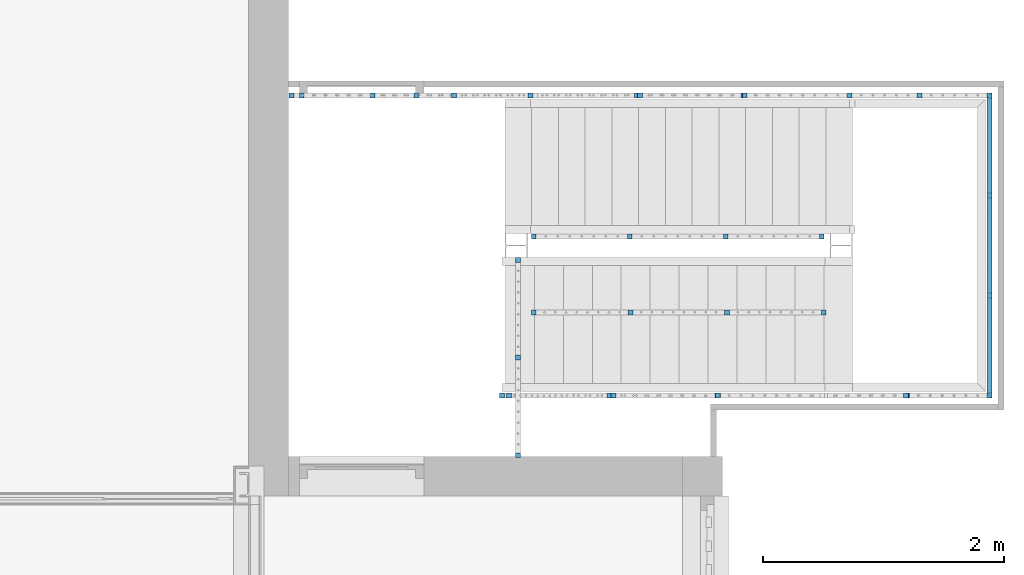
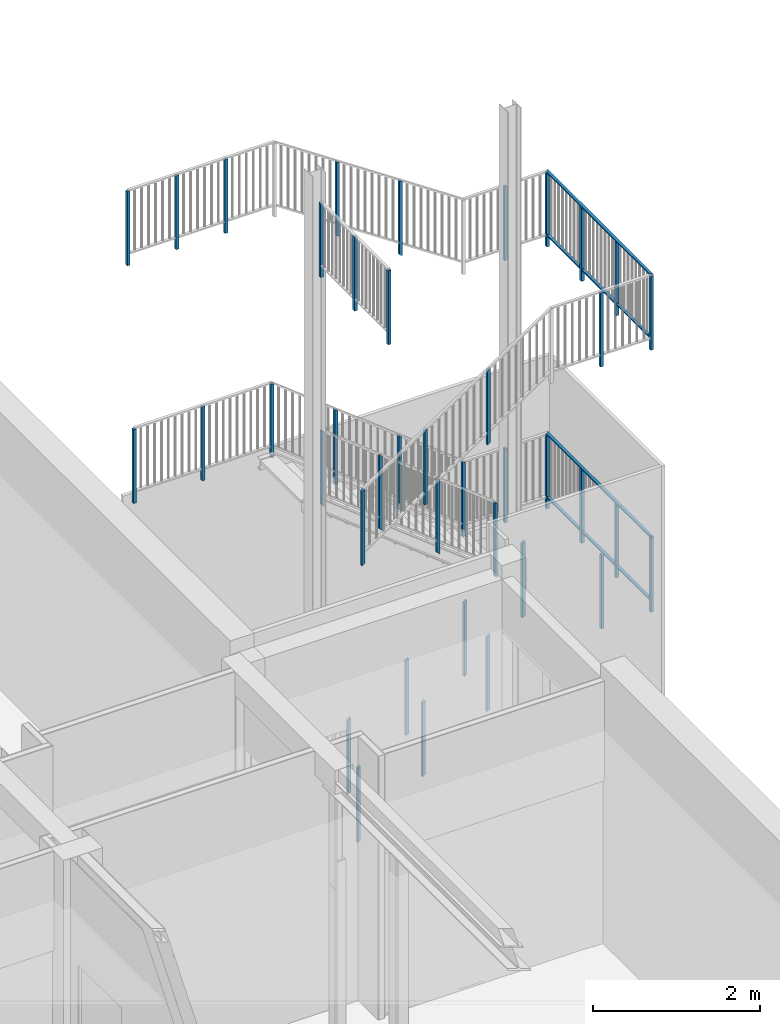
# One storey, part 5 of 135: 44 members, 5 elements without a shape of their own.
"""IFC2X3 building model written with IfcOpenShell, lengths in millimetres."""

import ifcopenshell
import ifcopenshell.guid

model = None  # the IFC model being written
_history = None  # IfcOwnerHistory: only IFC2X3 demands one
_inside = {}  # id of a spatial element -> (the spatial element, [elements in it])
_under = {}  # id of a project, library or spatial element -> (it, [spatial elements below it])
_declared = {}  # id of a project -> (the project, [libraries it declares])
_typed = {}  # id of a type object -> (the type object, [elements of that type])
_made_of = {}  # id of a material, layer set ... -> (it, [elements and type objects made of it])


def new_model(schema):
    """Start an empty IFC model of exactly this schema.

    Asked for "IFC4X3", IfcOpenShell would pick the latest addendum, in which some entities
    have other attributes; the version numbers below select the first issue.
    IFC2X3 requires an IfcOwnerHistory on every rooted entity: one is made here for all.
    """
    global model, _history
    if schema == "IFC4X3":
        model = ifcopenshell.file(schema_version=(4, 3, 0, 0))
    else:
        model = ifcopenshell.file(schema=schema)
    _inside.clear()
    _under.clear()
    _declared.clear()
    _typed.clear()
    _made_of.clear()
    _history = None
    if model.schema == "IFC2X3":
        org = make("IfcOrganization", Name="unknown")
        user = make(
            "IfcPersonAndOrganization",
            ThePerson=make("IfcPerson", FamilyName="unknown"),
            TheOrganization=org,
        )
        app = make(
            "IfcApplication",
            ApplicationDeveloper=org,
            Version="unknown",
            ApplicationFullName="unknown",
            ApplicationIdentifier="unknown",
        )
        _history = make(
            "IfcOwnerHistory",
            OwningUser=user,
            OwningApplication=app,
            ChangeAction="ADDED",
            CreationDate=0,
        )
    return model


def make(cls, **values):
    """One entity of the class cls with the attributes given. An attribute that is None is left unset."""
    return model.create_entity(
        cls, **{name: value for name, value in values.items() if value is not None}
    )


def entity(cls, *values):
    """Any entity or typed value of the class cls, its attributes in the order of the schema. None: left unset."""
    e = model.create_entity(cls)
    for i, value in enumerate(values):
        if value is not None:
            e[i] = value
    return e


def rooted(cls, **values):
    """An entity with a GlobalId (a new one), such as an element, a storey or a relation."""
    return make(cls, GlobalId=ifcopenshell.guid.new(), OwnerHistory=_history, **values)


def si_unit(unit_type, name, prefix=None):
    """IfcSIUnit, for example si_unit("LENGTHUNIT", "METRE", prefix="MILLI")."""
    return make("IfcSIUnit", UnitType=unit_type, Prefix=prefix, Name=name)


def converted_unit(unit_type, name, factor, base, dimensions=None, offset=None):
    """IfcConversionBasedUnit, such as the inch: factor (a typed value) times the base unit."""
    return make(
        "IfcConversionBasedUnit"
        if offset is None
        else "IfcConversionBasedUnitWithOffset",
        ConversionOffset=offset,
        Dimensions=None
        if dimensions is None
        else entity("IfcDimensionalExponents", *dimensions),
        UnitType=unit_type,
        Name=name,
        ConversionFactor=make(
            "IfcMeasureWithUnit", ValueComponent=factor, UnitComponent=base
        ),
    )


def derived_unit(unit_type, elements):
    """IfcDerivedUnit: a product of units, each with its exponent."""
    return make(
        "IfcDerivedUnit",
        Elements=[
            make("IfcDerivedUnitElement", Unit=unit, Exponent=power)
            for unit, power in elements
        ],
        UnitType=unit_type,
    )


def money_unit(currency):
    """IfcMonetaryUnit."""
    return make("IfcMonetaryUnit", Currency=currency)


def assignment(units):
    """IfcUnitAssignment: the units of a project."""
    return None if units is None else make("IfcUnitAssignment", Units=units)


def point(xyz):
    """IfcCartesianPoint."""
    return None if xyz is None else make("IfcCartesianPoint", Coordinates=xyz)


def direction(xyz):
    """IfcDirection."""
    return None if xyz is None else make("IfcDirection", DirectionRatios=xyz)


def frame(location, z_axis=None, x_axis=None):
    """IfcAxis2Placement3D, a coordinate frame: its origin and axes. An axis left out is left unset."""
    return make(
        "IfcAxis2Placement3D",
        Location=point(location),
        Axis=direction(z_axis),
        RefDirection=direction(x_axis),
    )


def origin_with_axes():
    """The frame at (0, 0, 0) with the z axis (0, 0, 1) and the x axis (1, 0, 0) written out."""
    return frame((0.0, 0.0, 0.0), z_axis=(0.0, 0.0, 1.0), x_axis=(1.0, 0.0, 0.0))


def place(relative_to, where):
    """IfcLocalPlacement: puts the frame where relative to a parent placement (None: the world)."""
    return make(
        "IfcLocalPlacement", PlacementRelTo=relative_to, RelativePlacement=where
    )


def context(
    kind, dimensions, precision=None, world=None, true_north=None, identifier=None
):
    """IfcGeometricRepresentationContext, for example the 3D "Model" context."""
    return make(
        "IfcGeometricRepresentationContext",
        ContextIdentifier=identifier,
        ContextType=kind,
        CoordinateSpaceDimension=dimensions,
        Precision=precision,
        WorldCoordinateSystem=world,
        TrueNorth=true_north,
    )


def subcontext(parent, identifier, kind, view, scale=None):
    """IfcGeometricRepresentationSubContext, for example "Body" below "Model"."""
    return make(
        "IfcGeometricRepresentationSubContext",
        ContextIdentifier=identifier,
        ContextType=kind,
        ParentContext=parent,
        TargetScale=scale,
        TargetView=view,
    )


def project(units=None, contexts=None):
    """IfcProject with its units and contexts."""
    return rooted(
        "IfcProject",
        Name="project",
        RepresentationContexts=contexts,
        UnitsInContext=assignment(units),
    )


def spatial(cls, under=None, at=None, **own):
    """A site, building, storey or space (cls), placed at a placement, below another one or the project."""
    s = rooted(cls, ObjectPlacement=at, **own)
    if under is not None:
        _under.setdefault(under.id(), (under, []))[1].append(s)
    return s


def faces_of(points, faces, orient=None, outer=None):
    """IfcFace entities. A face is a list of loops; a loop is a list of indices into points, from 0.

    orient and outer hold one flag for each loop. By default every Orientation is true, the
    first loop of a face is its IfcFaceOuterBound and the others are IfcFaceBound.
    """
    made = []
    for i, loops in enumerate(faces):
        bounds = []
        for j, loop in enumerate(loops):
            is_outer = j == 0 if outer is None else outer[i][j]
            bounds.append(
                make(
                    "IfcFaceOuterBound" if is_outer else "IfcFaceBound",
                    Bound=make("IfcPolyLoop", Polygon=[points[k] for k in loop]),
                    Orientation=True if orient is None else orient[i][j],
                )
            )
        made.append(make("IfcFace", Bounds=bounds))
    return made


def faceted_brep(points, faces, orient=None, outer=None, voids=None):
    """IfcFacetedBrep: a solid bounded by flat faces; with voids (closed shells), ...WithVoids."""
    shared = [point(p) for p in points]
    hull = make("IfcClosedShell", CfsFaces=faces_of(shared, faces, orient, outer))
    if voids is None:
        return make("IfcFacetedBrep", Outer=hull)
    return make(
        "IfcFacetedBrepWithVoids",
        Outer=hull,
        Voids=[
            make(cls, CfsFaces=faces_of(shared, fs, o, b)) for cls, fs, o, b in voids
        ],
    )


def shape(context_of_items, identifier, shape_type, items):
    """IfcShapeRepresentation: the items that make up one representation, for example the "Body"."""
    return make(
        "IfcShapeRepresentation",
        ContextOfItems=context_of_items,
        RepresentationIdentifier=identifier,
        RepresentationType=shape_type,
        Items=items,
    )


def source(mapping_origin, context_of_items, identifier, shape_type, items):
    """IfcRepresentationMap: a shape defined once, which mapped items show again and again."""
    return make(
        "IfcRepresentationMap",
        MappingOrigin=mapping_origin,
        MappedRepresentation=shape(context_of_items, identifier, shape_type, items),
    )


def transform(
    local_origin,
    x_axis=None,
    y_axis=None,
    z_axis=None,
    scale=None,
    scale2=None,
    scale3=None,
    uniform=True,
):
    """IfcCartesianTransformationOperator3D, or its non-uniform kind. x_axis, y_axis, z_axis: its Axis1, 2, 3."""
    if uniform:
        return make(
            "IfcCartesianTransformationOperator3D",
            Axis1=direction(x_axis),
            Axis2=direction(y_axis),
            LocalOrigin=point(local_origin),
            Scale=scale,
            Axis3=direction(z_axis),
        )
    return make(
        "IfcCartesianTransformationOperator3DnonUniform",
        Axis1=direction(x_axis),
        Axis2=direction(y_axis),
        LocalOrigin=point(local_origin),
        Scale=scale,
        Axis3=direction(z_axis),
        Scale2=scale2,
        Scale3=scale3,
    )


def mapped(mapping_source, mapping_target):
    """IfcMappedItem: shows the shape of a source again, moved by a transform."""
    return make(
        "IfcMappedItem", MappingSource=mapping_source, MappingTarget=mapping_target
    )


def material(Name=None, Category=None):
    """IfcMaterial."""
    return make("IfcMaterial", Name=Name, Category=Category)


def made_of(thing, what):
    """Note that an element or type object is made of a material, layer set ...; save() writes the relation."""
    if what is not None:
        _made_of.setdefault(what.id(), (what, []))[1].append(thing)
    return thing


def type_object(cls, material=None, **own):
    """A type object (cls), such as IfcWallType, which elements share."""
    return made_of(rooted(cls, **own), material)


def type_shapes(of_type, sources):
    """Give a type object the sources (RepresentationMaps) that its elements show as mapped items."""
    of_type.RepresentationMaps = sources


def element(
    cls,
    number,
    at=None,
    inside=None,
    cuts=None,
    type_object=None,
    material=None,
    context=None,
    identifier="Body",
    shape_type=None,
    held_by="IfcProductDefinitionShape",
    body=None,
    shapes=None,
    **own,
):
    """One element of the class cls, such as IfcWall. Its Tag is "e" and its number.

    at: its placement. inside: the storey or other place that contains it. cuts: it is an
    opening in that element (IfcRelVoidsElement). A single representation is given by context,
    identifier, shape_type and body (its items); several are given by shapes. held_by: the class
    of the entity that holds the representations. save() writes the other relations.
    """
    e = rooted(cls, Tag="e%d" % number, ObjectPlacement=at, **own)
    if body is not None:
        shapes = [shape(context, identifier, shape_type, body)]
    if shapes is not None:
        e.Representation = make(held_by, Representations=shapes)
    if inside is not None:
        _inside.setdefault(inside.id(), (inside, []))[1].append(e)
    if cuts is not None:
        rooted(
            "IfcRelVoidsElement", RelatingBuildingElement=cuts, RelatedOpeningElement=e
        )
    if type_object is not None:
        _typed.setdefault(type_object.id(), (type_object, []))[1].append(e)
    return made_of(e, material)


def aggregate(whole, parts):
    """IfcRelAggregates: a whole, such as a stair, and the parts it consists of."""
    return rooted("IfcRelAggregates", RelatingObject=whole, RelatedObjects=parts)


def save(model, path):
    """Write the relations noted so far, then the file.

    IfcRelAggregates (storeys below a building ...), IfcRelContainedInSpatialStructure (elements
    in a storey), IfcRelDefinesByType, IfcRelAssociatesMaterial and IfcRelDeclares: one each for
    every whole, place, type object, material and project.
    """
    for whole, parts in _under.values():
        aggregate(whole, parts)
    for where, things in _inside.values():
        rooted(
            "IfcRelContainedInSpatialStructure",
            RelatedElements=things,
            RelatingStructure=where,
        )
    for kind, things in _typed.values():
        rooted("IfcRelDefinesByType", RelatedObjects=things, RelatingType=kind)
    for what, things in _made_of.values():
        rooted("IfcRelAssociatesMaterial", RelatedObjects=things, RelatingMaterial=what)
    for by, libraries in _declared.values():
        rooted("IfcRelDeclares", RelatingContext=by, RelatedDefinitions=libraries)
    model.write(path)


model = new_model("IFC2X3")

# Units and contexts
model_context = context("Model", 3, precision=0.01, world=origin_with_axes(), true_north=direction((0.0, 1.0)))
body_context = subcontext(model_context, "Body", "Model", "MODEL_VIEW")
ifc_project = project(units=[si_unit("LENGTHUNIT", "METRE", prefix="MILLI"), si_unit("AREAUNIT", "SQUARE_METRE"), si_unit("VOLUMEUNIT", "CUBIC_METRE"), converted_unit("PLANEANGLEUNIT", "DEGREE", entity("IfcPlaneAngleMeasure", 0.0174532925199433), si_unit("PLANEANGLEUNIT", "RADIAN"), dimensions=[0, 0, 0, 0, 0, 0, 0]), money_unit("EUR"), converted_unit("TIMEUNIT", "Year", entity("IfcTimeMeasure", 31557600.0), si_unit("TIMEUNIT", "SECOND"), dimensions=[0, 0, 1, 0, 0, 0, 0]), si_unit("MASSUNIT", "GRAM", prefix="KILO"), si_unit("THERMODYNAMICTEMPERATUREUNIT", "DEGREE_CELSIUS"), si_unit("LUMINOUSINTENSITYUNIT", "LUMEN"), si_unit("ENERGYUNIT", "JOULE", prefix="MEGA"), derived_unit("THERMALCONDUCTANCEUNIT", [(si_unit("POWERUNIT", "WATT"), 1), (si_unit("LENGTHUNIT", "METRE"), -1), (si_unit("THERMODYNAMICTEMPERATUREUNIT", "KELVIN"), -1)]), derived_unit("SPECIFICHEATCAPACITYUNIT", [(si_unit("ENERGYUNIT", "JOULE"), 1), (si_unit("MASSUNIT", "GRAM", prefix="KILO"), -1), (si_unit("THERMODYNAMICTEMPERATUREUNIT", "KELVIN"), -1)]), derived_unit("MASSDENSITYUNIT", [(si_unit("MASSUNIT", "GRAM", prefix="KILO"), 1), (si_unit("VOLUMEUNIT", "CUBIC_METRE"), -1)])], contexts=[model_context])

# Site, building, storey
site_placement = place(None, origin_with_axes())
site = spatial("IfcSite", under=ifc_project, at=site_placement, Name="Site", CompositionType="ELEMENT")
building_placement = place(site_placement, origin_with_axes())
building = spatial("IfcBuilding", under=site, at=building_placement, Name="Naam gebouw", CompositionType="ELEMENT")
storey_placement = place(building_placement, origin_with_axes())
storey = spatial("IfcBuildingStorey", under=building, at=storey_placement, Name="Begane grond N", CompositionType="ELEMENT", Elevation=0.0)

# Railing, members
railing_type = type_object("IfcRailingType", Name="Railing Type", PredefinedType="NOTDEFINED")
railing_1_placement = place(storey_placement, frame((56130.0, 21825.9124251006, 348.1433232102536), z_axis=(0.0, 0.0, 1.0), x_axis=(1.0, 0.0, 0.0)))
railing_1 = element("IfcRailing", 1, at=railing_1_placement, inside=storey, type_object=railing_type, Name="_Reling-x", PredefinedType="NOTDEFINED")
ifc_material = material(Name="Metaal - Staal C")
member_type_1 = type_object("IfcMemberType", Name="IfcMember", PredefinedType="POST")
shared_shape_1 = source(origin_with_axes(), body_context, "Body", "Brep", [
    faceted_brep([(20.0, 20.0, 14.40972222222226), (-20.0, 20.0, 14.40972222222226), (-20.00000000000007, 20.0, 1094.409722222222), (19.99999999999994, 20.0, 1094.409722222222), (20.0, -20.0, -14.40972222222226), (-20.0, -20.0, -14.40972222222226), (-20.00000000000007, -20.0, 1065.590277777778), (19.99999999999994, -20.0, 1065.590277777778)], [[[0, 1, 2, 3]], [[0, 4, 5, 1]], [[1, 5, 6, 2]], [[3, 2, 6, 7]], [[4, 0, 3, 7]], [[5, 4, 7, 6]]]),
])
member_1_placement = place(railing_1_placement, frame((234.6527777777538, 24.99999999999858, -100.0), z_axis=(0.0, 0.0, 1.0), x_axis=(1.0, 0.0, 0.0)))
member_1 = element("IfcMember", 2, at=member_1_placement, type_object=member_type_1, material=ifc_material, Name="_Hoofdbaluster-x", ObjectType="POST", context=body_context, shape_type="MappedRepresentation", body=[
    mapped(shared_shape_1, transform((0.0, 0.0, 0.0), x_axis=(0.0, -1.0, 0.0), y_axis=(1.0, 0.0, 0.0), z_axis=(0.0, 0.0, 1.0))),
])
member_2_placement = place(railing_1_placement, frame((2639.999999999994, 24.99999999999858, 1633.019266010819), z_axis=(0.0, 0.0, 1.0), x_axis=(1.0, 0.0, 0.0)))
member_2 = element("IfcMember", 3, at=member_2_placement, type_object=member_type_1, material=ifc_material, Name="_Hoofdbaluster-x", ObjectType="POST", context=body_context, shape_type="MappedRepresentation", body=[
    mapped(shared_shape_1, transform((0.0, 0.0, 0.0), x_axis=(0.0, -1.0, 0.0), y_axis=(1.0, 0.0, 0.0), z_axis=(0.0, 0.0, 1.0))),
])
member_3_placement = place(railing_1_placement, frame((1036.435185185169, 24.99999999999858, 477.6730886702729), z_axis=(0.0, 0.0, 1.0), x_axis=(1.0, 0.0, 0.0)))
member_3 = element("IfcMember", 4, at=member_3_placement, type_object=member_type_1, material=ifc_material, Name="_Baluster-x", ObjectType="POST", context=body_context, shape_type="MappedRepresentation", body=[
    mapped(shared_shape_1, transform((0.0, 0.0, 0.0), x_axis=(0.0, -1.0, 0.0), y_axis=(1.0, 0.0, 0.0), z_axis=(0.0, 0.0, 1.0))),
])
member_4_placement = place(railing_1_placement, frame((1838.217592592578, 24.99999999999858, 1055.346177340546), z_axis=(0.0, 0.0, 1.0), x_axis=(1.0, 0.0, 0.0)))
member_4 = element("IfcMember", 5, at=member_4_placement, type_object=member_type_1, material=ifc_material, Name="_Baluster-x", ObjectType="POST", context=body_context, shape_type="MappedRepresentation", body=[
    mapped(shared_shape_1, transform((0.0, 0.0, 0.0), x_axis=(0.0, -1.0, 0.0), y_axis=(1.0, 0.0, 0.0), z_axis=(0.0, 0.0, 1.0))),
])
aggregate(railing_1, [member_1, member_2, member_3, member_4])

railing_2_placement = place(storey_placement, frame((56236.62159597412, 21185.9124251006, 157.4646725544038), z_axis=(0.0, 0.0, 1.0), x_axis=(1.0, 0.0, 0.0)))
railing_2 = element("IfcRailing", 6, at=railing_2_placement, inside=storey, type_object=railing_type, Name="_Reling-x", PredefinedType="NOTDEFINED")
shared_shape_2 = source(origin_with_axes(), body_context, "Body", "Brep", [
    faceted_brep([(20.0, 20.0, 14.40972222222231), (-20.0, 20.0, 14.40972222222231), (-20.00000000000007, 20.0, 1094.409722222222), (19.99999999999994, 20.0, 1094.409722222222), (20.0, -20.0, -14.40972222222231), (-20.0, -20.0, -14.40972222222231), (-20.00000000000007, -20.0, 1065.590277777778), (19.99999999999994, -20.0, 1065.590277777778)], [[[0, 1, 2, 3]], [[0, 4, 5, 1]], [[1, 5, 6, 2]], [[3, 2, 6, 7]], [[4, 0, 3, 7]], [[5, 4, 7, 6]]]),
])
member_5_placement = place(railing_2_placement, frame((-136.6215959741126, -24.99999999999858, -100.0), z_axis=(0.0, 0.0, 1.0), x_axis=(1.0, 0.0, 0.0)))
member_5 = element("IfcMember", 7, at=member_5_placement, type_object=member_type_1, material=ifc_material, Name="_Hoofdbaluster-x", ObjectType="POST", context=body_context, shape_type="MappedRepresentation", body=[
    mapped(shared_shape_2, transform((0.0, 0.0, 0.0), x_axis=(0.0, -1.0, 0.0), y_axis=(1.0, 0.0, 0.0), z_axis=(0.0, 0.0, 1.0))),
])
member_6_placement = place(railing_2_placement, frame((756.3907322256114, -24.99999999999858, 543.4029795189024), z_axis=(0.0, 0.0, 1.0), x_axis=(1.0, 0.0, 0.0)))
member_6 = element("IfcMember", 8, at=member_6_placement, type_object=member_type_1, material=ifc_material, Name="_Baluster-x", ObjectType="POST", context=body_context, shape_type="MappedRepresentation", body=[
    mapped(shared_shape_2, transform((0.0, 0.0, 0.0), x_axis=(0.0, -1.0, 0.0), y_axis=(1.0, 0.0, 0.0), z_axis=(0.0, 0.0, 1.0))),
])
member_7_placement = place(railing_2_placement, frame((1649.403060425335, -24.99999999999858, 1186.805959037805), z_axis=(0.0, 0.0, 1.0), x_axis=(1.0, 0.0, 0.0)))
member_7 = element("IfcMember", 9, at=member_7_placement, type_object=member_type_1, material=ifc_material, Name="_Baluster-x", ObjectType="POST", context=body_context, shape_type="MappedRepresentation", body=[
    mapped(shared_shape_2, transform((0.0, 0.0, 0.0), x_axis=(0.0, -1.0, 0.0), y_axis=(1.0, 0.0, 0.0), z_axis=(0.0, 0.0, 1.0))),
])
shared_shape_3 = source(origin_with_axes(), body_context, "Body", "Brep", [
    faceted_brep([(20.0, 20.0, 0.0), (-20.0, 20.0, 0.0), (-20.00000000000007, 20.0, 1080.0), (19.99999999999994, 20.0, 1080.0), (20.0, -20.0, 0.0), (-20.0, -20.0, 0.0), (-20.00000000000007, -20.0, 1080.0), (19.99999999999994, -20.0, 1080.0)], [[[0, 1, 2, 3]], [[0, 4, 5, 1]], [[1, 5, 6, 2]], [[3, 2, 6, 7]], [[4, 0, 3, 7]], [[5, 4, 7, 6]]]),
])
member_8_placement = place(railing_2_placement, frame((3908.03766228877, -24.99999999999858, 1830.208938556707), z_axis=(0.0, 0.0, 1.0), x_axis=(1.0, 0.0, 0.0)))
member_8 = element("IfcMember", 10, at=member_8_placement, type_object=member_type_1, material=ifc_material, Name="_Hoofdbaluster-x", ObjectType="POST", context=body_context, shape_type="MappedRepresentation", body=[
    mapped(shared_shape_3, transform((0.0, 0.0, 0.0), x_axis=(0.0, -1.0, 0.0), y_axis=(1.0, 0.0, 0.0), z_axis=(0.0, 0.0, 1.0))),
])
member_9_placement = place(railing_2_placement, frame((3908.03766228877, 2465.000000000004, 1830.208938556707), z_axis=(0.0, 0.0, 1.0), x_axis=(1.0, 0.0, 0.0)))
member_9 = element("IfcMember", 11, at=member_9_placement, type_object=member_type_1, material=ifc_material, Name="_Hoofdbaluster-x", ObjectType="POST", context=body_context, shape_type="MappedRepresentation", body=[
    mapped(shared_shape_3, transform((0.0, 0.0, 0.0))),
])
member_10_placement = place(railing_2_placement, frame((-1796.20207090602, 2465.000000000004, 3905.163046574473), z_axis=(0.0, 0.0, 1.0), x_axis=(1.0, 0.0, 0.0)))
member_10 = element("IfcMember", 12, at=member_10_placement, type_object=member_type_1, material=ifc_material, Name="_Hoofdbaluster-x", ObjectType="POST", context=body_context, shape_type="MappedRepresentation", body=[
    mapped(shared_shape_3, transform((0.0, 0.0, 0.0), x_axis=(0.0, 1.0, 0.0), y_axis=(-1.0, 0.0, 0.0), z_axis=(0.0, 0.0, 1.0))),
])
member_11_placement = place(railing_2_placement, frame((3225.226525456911, -24.99999999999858, 1830.208938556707), z_axis=(0.0, 0.0, 1.0), x_axis=(1.0, 0.0, 0.0)))
member_11 = element("IfcMember", 13, at=member_11_placement, type_object=member_type_1, material=ifc_material, Name="_Baluster-x", ObjectType="POST", context=body_context, shape_type="MappedRepresentation", body=[
    mapped(shared_shape_3, transform((0.0, 0.0, 0.0), x_axis=(0.0, -1.0, 0.0), y_axis=(1.0, 0.0, 0.0), z_axis=(0.0, 0.0, 1.0))),
])
member_12_placement = place(railing_2_placement, frame((3908.03766228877, 805.0000000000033, 1830.208938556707), z_axis=(0.0, 0.0, 1.0), x_axis=(1.0, 0.0, 0.0)))
member_12 = element("IfcMember", 14, at=member_12_placement, type_object=member_type_1, material=ifc_material, Name="_Baluster-x", ObjectType="POST", context=body_context, shape_type="MappedRepresentation", body=[
    mapped(shared_shape_3, transform((0.0, 0.0, 0.0))),
])
member_13_placement = place(railing_2_placement, frame((3908.03766228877, 1635.000000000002, 1830.208938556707), z_axis=(0.0, 0.0, 1.0), x_axis=(1.0, 0.0, 0.0)))
member_13 = element("IfcMember", 15, at=member_13_placement, type_object=member_type_1, material=ifc_material, Name="_Baluster-x", ObjectType="POST", context=body_context, shape_type="MappedRepresentation", body=[
    mapped(shared_shape_3, transform((0.0, 0.0, 0.0))),
])
member_14_placement = place(railing_2_placement, frame((3328.195691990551, 2465.000000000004, 1830.208938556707), z_axis=(0.0, 0.0, 1.0), x_axis=(1.0, 0.0, 0.0)))
member_14 = element("IfcMember", 16, at=member_14_placement, type_object=member_type_1, material=ifc_material, Name="_Baluster-x", ObjectType="POST", context=body_context, shape_type="MappedRepresentation", body=[
    mapped(shared_shape_3, transform((0.0, 0.0, 0.0), x_axis=(0.0, 1.0, 0.0), y_axis=(-1.0, 0.0, 0.0), z_axis=(0.0, 0.0, 1.0))),
])
member_15_placement = place(railing_2_placement, frame((-847.1114700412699, 2465.000000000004, 3905.163046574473), z_axis=(0.0, 0.0, 1.0), x_axis=(1.0, 0.0, 0.0)))
member_15 = element("IfcMember", 17, at=member_15_placement, type_object=member_type_1, material=ifc_material, Name="_Baluster-x", ObjectType="POST", context=body_context, shape_type="MappedRepresentation", body=[
    mapped(shared_shape_3, transform((0.0, 0.0, 0.0), x_axis=(0.0, 1.0, 0.0), y_axis=(-1.0, 0.0, 0.0), z_axis=(0.0, 0.0, 1.0))),
])

railing_3_placement = place(storey_placement, frame((56236.62159597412, 21185.9124251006, 4176.0), z_axis=(0.0, 0.0, 1.0), x_axis=(1.0, 0.0, 0.0)))
railing_3 = element("IfcRailing", 18, at=railing_3_placement, inside=storey, type_object=railing_type, Name="_Reling-x", PredefinedType="NOTDEFINED")
member_16_placement = place(railing_3_placement, frame((3908.378404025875, -24.99999999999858, 1636.673611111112), z_axis=(0.0, 0.0, 1.0), x_axis=(1.0, 0.0, 0.0)))
member_16 = element("IfcMember", 19, at=member_16_placement, type_object=member_type_1, material=ifc_material, Name="_Hoofdbaluster-x", ObjectType="POST", context=body_context, shape_type="MappedRepresentation", body=[
    mapped(shared_shape_3, transform((0.0, 0.0, 0.0), x_axis=(0.0, -1.0, 0.0), y_axis=(1.0, 0.0, 0.0), z_axis=(0.0, 0.0, 1.0))),
])
member_17_placement = place(railing_3_placement, frame((3908.378404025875, 2465.000000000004, 1636.673611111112), z_axis=(0.0, 0.0, 1.0), x_axis=(1.0, 0.0, 0.0)))
member_17 = element("IfcMember", 20, at=member_17_placement, type_object=member_type_1, material=ifc_material, Name="_Hoofdbaluster-x", ObjectType="POST", context=body_context, shape_type="MappedRepresentation", body=[
    mapped(shared_shape_3, transform((0.0, 0.0, 0.0))),
])
member_18_placement = place(railing_3_placement, frame((3214.935431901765, -24.99999999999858, 1636.673611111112), z_axis=(0.0, 0.0, 1.0), x_axis=(1.0, 0.0, 0.0)))
member_18 = element("IfcMember", 21, at=member_18_placement, type_object=member_type_1, material=ifc_material, Name="_Baluster-x", ObjectType="POST", context=body_context, shape_type="MappedRepresentation", body=[
    mapped(shared_shape_3, transform((0.0, 0.0, 0.0), x_axis=(0.0, -1.0, 0.0), y_axis=(1.0, 0.0, 0.0), z_axis=(0.0, 0.0, 1.0))),
])
member_19_placement = place(railing_3_placement, frame((3908.378404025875, 805.0000000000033, 1636.673611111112), z_axis=(0.0, 0.0, 1.0), x_axis=(1.0, 0.0, 0.0)))
member_19 = element("IfcMember", 22, at=member_19_placement, type_object=member_type_1, material=ifc_material, Name="_Baluster-x", ObjectType="POST", context=body_context, shape_type="MappedRepresentation", body=[
    mapped(shared_shape_3, transform((0.0, 0.0, 0.0))),
])
member_20_placement = place(railing_3_placement, frame((3908.378404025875, 1635.000000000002, 1636.673611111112), z_axis=(0.0, 0.0, 1.0), x_axis=(1.0, 0.0, 0.0)))
member_20 = element("IfcMember", 23, at=member_20_placement, type_object=member_type_1, material=ifc_material, Name="_Baluster-x", ObjectType="POST", context=body_context, shape_type="MappedRepresentation", body=[
    mapped(shared_shape_3, transform((0.0, 0.0, 0.0))),
])
member_21_placement = place(railing_3_placement, frame((3327.60050876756, 2465.000000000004, 1636.673611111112), z_axis=(0.0, 0.0, 1.0), x_axis=(1.0, 0.0, 0.0)))
member_21 = element("IfcMember", 24, at=member_21_placement, type_object=member_type_1, material=ifc_material, Name="_Baluster-x", ObjectType="POST", context=body_context, shape_type="MappedRepresentation", body=[
    mapped(shared_shape_3, transform((0.0, 0.0, 0.0), x_axis=(0.0, 1.0, 0.0), y_axis=(-1.0, 0.0, 0.0), z_axis=(0.0, 0.0, 1.0))),
])

railing_4_placement = place(storey_placement, frame((56209.65277777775, 21185.9124251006, 7662.6), z_axis=(0.0, 0.0, 1.0), x_axis=(1.0, 0.0, 0.0)))
railing_4 = element("IfcRailing", 25, at=railing_4_placement, inside=storey, type_object=railing_type, Name="_Reling-x", PredefinedType="NOTDEFINED")
member_22_placement = place(railing_4_placement, frame((24.99999999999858, -519.999999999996, -99.99999999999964), z_axis=(0.0, 0.0, 1.0), x_axis=(1.0, 0.0, 0.0)))
member_22 = element("IfcMember", 26, at=member_22_placement, type_object=member_type_1, material=ifc_material, Name="_Hoofdbaluster-x", ObjectType="POST", context=body_context, shape_type="MappedRepresentation", body=[
    mapped(shared_shape_3, transform((0.0, 0.0, 0.0))),
])
member_23_placement = place(railing_4_placement, frame((24.99999999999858, 1100.000000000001, -99.99999999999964), z_axis=(0.0, 0.0, 1.0), x_axis=(1.0, 0.0, 0.0)))
member_23 = element("IfcMember", 27, at=member_23_placement, type_object=member_type_1, material=ifc_material, Name="_Hoofdbaluster-x", ObjectType="POST", context=body_context, shape_type="MappedRepresentation", body=[
    mapped(shared_shape_3, transform((0.0, 0.0, 0.0))),
])
member_24_placement = place(railing_4_placement, frame((24.99999999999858, 290.0000000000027, -100.0000000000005), z_axis=(0.0, 0.0, 1.0), x_axis=(1.0, 0.0, 0.0)))
member_24 = element("IfcMember", 28, at=member_24_placement, type_object=member_type_1, material=ifc_material, Name="_Baluster-x", ObjectType="POST", context=body_context, shape_type="MappedRepresentation", body=[
    mapped(shared_shape_3, transform((0.0, 0.0, 0.0))),
])
aggregate(railing_4, [member_22, member_23, member_24])

# Member
shared_shape_4 = source(origin_with_axes(), body_context, "Body", "Brep", [
    faceted_brep([(20.0, 20.0, 6.905900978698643), (-20.0, 20.0, 6.905900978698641), (-20.00000000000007, 20.0, 1086.905900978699), (19.99999999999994, 20.0, 1086.905900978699), (20.0, -20.0, -6.905900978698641), (-20.0, -20.0, -6.905900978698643), (-20.00000000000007, -20.0, 1073.094099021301), (19.99999999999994, -20.0, 1073.094099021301)], [[[0, 1, 2, 3]], [[0, 4, 5, 1]], [[1, 5, 6, 2]], [[3, 2, 6, 7]], [[4, 0, 3, 7]], [[5, 4, 7, 6]]]),
])
member_25_placement = place(railing_2_placement, frame((2748.353721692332, 2465.000000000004, 1830.208938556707), z_axis=(0.0, 0.0, 1.0), x_axis=(1.0, 0.0, 0.0)))
member_25 = element("IfcMember", 29, at=member_25_placement, type_object=member_type_1, material=ifc_material, Name="_Hoofdbaluster-x", ObjectType="POST", context=body_context, shape_type="MappedRepresentation", body=[
    mapped(shared_shape_4, transform((0.0, 0.0, 0.0), x_axis=(0.0, 1.0, 0.0), y_axis=(-1.0, 0.0, 0.0), z_axis=(0.0, 0.0, 1.0))),
])

member_26_placement = place(railing_2_placement, frame((101.9791308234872, 2465.000000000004, 3905.163046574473), z_axis=(0.0, 0.0, 1.0), x_axis=(1.0, 0.0, 0.0)))
member_26 = element("IfcMember", 30, at=member_26_placement, type_object=member_type_1, material=ifc_material, Name="_Hoofdbaluster-x", ObjectType="POST", context=body_context, shape_type="MappedRepresentation", body=[
    mapped(shared_shape_4, transform((0.0, 0.0, 0.0), x_axis=(0.0, 1.0, 0.0), y_axis=(-1.0, 0.0, 0.0), z_axis=(0.0, 0.0, 1.0))),
])

member_type_2 = type_object("IfcMemberType", Name="IfcMember", PredefinedType="USERDEFINED")
shared_shape_5 = source(origin_with_axes(), body_context, "Body", "Brep", [
    faceted_brep([(20.0, -20.0, 1000.0), (20.0, -20.0, 980.0), (20.0, 2510.000000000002, 980.0), (20.0, 2510.000000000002, 1000.0), (-20.0, 20.0, 1000.0), (-20.0, 20.0, 980.0), (-20.0, 2470.000000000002, 980.0), (-20.0, 2470.000000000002, 1000.0)], [[[0, 1, 2, 3]], [[0, 4, 5, 1]], [[1, 5, 6, 2]], [[3, 2, 6, 7]], [[4, 0, 3, 7]], [[5, 4, 7, 6]]]),
])
member_27_placement = place(railing_2_placement, frame((3908.03766228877, 1220.000000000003, 2901.924667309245), z_axis=(0.0, 0.0, 1.0), x_axis=(1.0, 0.0, 0.0)))
member_27 = element("IfcMember", 31, at=member_27_placement, type_object=member_type_2, material=ifc_material, Name="_Bovenregel-x", context=body_context, shape_type="MappedRepresentation", body=[
    mapped(shared_shape_5, transform((0.0, -1245.000000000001, -971.715728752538))),
])

member_28_placement = place(railing_3_placement, frame((3908.378404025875, 1220.000000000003, 2708.38933986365), z_axis=(0.0, 0.0, 1.0), x_axis=(1.0, 0.0, 0.0)))
member_28 = element("IfcMember", 32, at=member_28_placement, type_object=member_type_2, material=ifc_material, Name="_Bovenregel-x", context=body_context, shape_type="MappedRepresentation", body=[
    mapped(shared_shape_5, transform((0.0, -1245.000000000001, -971.715728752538))),
])

shared_shape_6 = source(origin_with_axes(), body_context, "Body", "Brep", [
    faceted_brep([(20.0, -20.0, 79.99999999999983), (20.0, -20.0, 59.99999999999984), (20.0, 2510.000000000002, 59.99999999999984), (20.0, 2510.000000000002, 79.99999999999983), (-20.0, 20.0, 79.99999999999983), (-20.0, 20.0, 59.99999999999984), (-20.0, 2470.000000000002, 59.99999999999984), (-20.0, 2470.000000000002, 79.99999999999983)], [[[0, 1, 2, 3]], [[0, 4, 5, 1]], [[1, 5, 6, 2]], [[3, 2, 6, 7]], [[4, 0, 3, 7]], [[5, 4, 7, 6]]]),
])
type_shapes(member_type_2, [shared_shape_5, shared_shape_6])
member_29_placement = place(railing_2_placement, frame((3908.03766228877, 1220.000000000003, 1977.848258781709), z_axis=(0.0, 0.0, 1.0), x_axis=(1.0, 0.0, 0.0)))
member_29 = element("IfcMember", 33, at=member_29_placement, type_object=member_type_2, material=ifc_material, Name="_Regel-x", context=body_context, shape_type="MappedRepresentation", body=[
    mapped(shared_shape_6, transform((0.0, -1245.000000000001, -47.63932022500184))),
])

member_30_placement = place(railing_3_placement, frame((3908.378404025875, 1220.000000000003, 1784.312931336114), z_axis=(0.0, 0.0, 1.0), x_axis=(1.0, 0.0, 0.0)))
member_30 = element("IfcMember", 34, at=member_30_placement, type_object=member_type_2, material=ifc_material, Name="_Regel-x", context=body_context, shape_type="MappedRepresentation", body=[
    mapped(shared_shape_6, transform((0.0, -1245.000000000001, -47.63932022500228))),
])

shared_shape_7 = source(origin_with_axes(), body_context, "Body", "Brep", [
    faceted_brep([(20.0, 20.0, 15.68148451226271), (-20.0, 20.0, 15.68148451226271), (-20.00000000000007, 20.0, 1095.681484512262), (19.99999999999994, 20.0, 1095.681484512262), (20.0, -20.0, -15.68148451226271), (-20.0, -20.0, -15.68148451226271), (-20.00000000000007, -20.0, 1064.318515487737), (19.99999999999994, -20.0, 1064.318515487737)], [[[0, 1, 2, 3]], [[0, 4, 5, 1]], [[1, 5, 6, 2]], [[3, 2, 6, 7]], [[4, 0, 3, 7]], [[5, 4, 7, 6]]]),
])
member_31_placement = place(railing_2_placement, frame((1866.228858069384, 2465.000000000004, 2521.860307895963), z_axis=(0.0, 0.0, 1.0), x_axis=(1.0, 0.0, 0.0)))
member_31 = element("IfcMember", 35, at=member_31_placement, type_object=member_type_1, material=ifc_material, Name="_Baluster-x", ObjectType="POST", context=body_context, shape_type="MappedRepresentation", body=[
    mapped(shared_shape_7, transform((0.0, 0.0, 0.0), x_axis=(0.0, 1.0, 0.0), y_axis=(-1.0, 0.0, 0.0), z_axis=(0.0, 0.0, 1.0))),
])

member_32_placement = place(railing_2_placement, frame((984.1039944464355, 2465.000000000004, 3213.511677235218), z_axis=(0.0, 0.0, 1.0), x_axis=(1.0, 0.0, 0.0)))
member_32 = element("IfcMember", 36, at=member_32_placement, type_object=member_type_1, material=ifc_material, Name="_Baluster-x", ObjectType="POST", context=body_context, shape_type="MappedRepresentation", body=[
    mapped(shared_shape_7, transform((0.0, 0.0, 0.0), x_axis=(0.0, 1.0, 0.0), y_axis=(-1.0, 0.0, 0.0), z_axis=(0.0, 0.0, 1.0))),
])

aggregate(railing_2, [member_5, member_8, member_9, member_25, member_26, member_10, member_6, member_7, member_11, member_27, member_29, member_12, member_13, member_14, member_31, member_32, member_15])

shared_shape_8 = source(origin_with_axes(), body_context, "Body", "Brep", [
    faceted_brep([(20.0, 20.0, 13.3612854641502), (-20.0, 20.0, 13.36128546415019), (-20.00000000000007, 20.0, 1093.36128546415), (19.99999999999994, 20.0, 1093.36128546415), (20.0, -20.0, -13.36128546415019), (-20.0, -20.0, -13.3612854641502), (-20.00000000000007, -20.0, 1066.63871453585), (19.99999999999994, -20.0, 1066.63871453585)], [[[0, 1, 2, 3]], [[0, 4, 5, 1]], [[1, 5, 6, 2]], [[3, 2, 6, 7]], [[4, 0, 3, 7]], [[5, 4, 7, 6]]]),
])
member_33_placement = place(railing_3_placement, frame((-78.06821239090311, -24.99999999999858, -99.99999999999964), z_axis=(0.0, 0.0, 1.0), x_axis=(1.0, 0.0, 0.0)))
member_33 = element("IfcMember", 37, at=member_33_placement, type_object=member_type_1, material=ifc_material, Name="_Hoofdbaluster-x", ObjectType="POST", context=body_context, shape_type="MappedRepresentation", body=[
    mapped(shared_shape_8, transform((0.0, 0.0, 0.0), x_axis=(0.0, -1.0, 0.0), y_axis=(1.0, 0.0, 0.0), z_axis=(0.0, 0.0, 1.0))),
])

member_34_placement = place(railing_3_placement, frame((788.4520116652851, -24.99999999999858, 478.8912037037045), z_axis=(0.0, 0.0, 1.0), x_axis=(1.0, 0.0, 0.0)))
member_34 = element("IfcMember", 38, at=member_34_placement, type_object=member_type_1, material=ifc_material, Name="_Baluster-x", ObjectType="POST", context=body_context, shape_type="MappedRepresentation", body=[
    mapped(shared_shape_8, transform((0.0, 0.0, 0.0), x_axis=(0.0, -1.0, 0.0), y_axis=(1.0, 0.0, 0.0), z_axis=(0.0, 0.0, 1.0))),
])

member_35_placement = place(railing_3_placement, frame((1654.972235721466, -24.99999999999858, 1057.782407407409), z_axis=(0.0, 0.0, 1.0), x_axis=(1.0, 0.0, 0.0)))
member_35 = element("IfcMember", 39, at=member_35_placement, type_object=member_type_1, material=ifc_material, Name="_Baluster-x", ObjectType="POST", context=body_context, shape_type="MappedRepresentation", body=[
    mapped(shared_shape_8, transform((0.0, 0.0, 0.0), x_axis=(0.0, -1.0, 0.0), y_axis=(1.0, 0.0, 0.0), z_axis=(0.0, 0.0, 1.0))),
])

shared_shape_9 = source(origin_with_axes(), body_context, "Body", "Brep", [
    faceted_brep([(20.0, 20.0, -0.001233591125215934), (-20.0, 20.0, -0.001233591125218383), (-20.00000000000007, 20.0, 1079.998766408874), (19.99999999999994, 20.0, 1079.998766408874), (20.0, -20.0, 0.001233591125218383), (-20.0, -20.0, 0.001233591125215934), (-20.00000000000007, -20.0, 1080.001233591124), (19.99999999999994, -20.0, 1080.001233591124)], [[[0, 1, 2, 3]], [[0, 4, 5, 1]], [[1, 5, 6, 2]], [[3, 2, 6, 7]], [[4, 0, 3, 7]], [[5, 4, 7, 6]]]),
])
member_36_placement = place(railing_3_placement, frame((-1881.819418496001, 2465.000000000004, 3386.6), z_axis=(0.0, 0.0, 1.0), x_axis=(1.0, 0.0, 0.0)))
member_36 = element("IfcMember", 40, at=member_36_placement, type_object=member_type_1, material=ifc_material, Name="_Hoofdbaluster-x", ObjectType="POST", context=body_context, shape_type="MappedRepresentation", body=[
    mapped(shared_shape_9, transform((0.0, 0.0, 0.0), x_axis=(0.0, 1.0, 0.0), y_axis=(-1.0, 0.0, 0.0), z_axis=(0.0, 0.0, 1.0))),
])

member_37_placement = place(railing_3_placement, frame((-533.6778960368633, 2465.000000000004, 3386.683152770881), z_axis=(0.0, 0.0, 1.0), x_axis=(1.0, 0.0, 0.0)))
member_37 = element("IfcMember", 41, at=member_37_placement, type_object=member_type_1, material=ifc_material, Name="_Baluster-x", ObjectType="POST", context=body_context, shape_type="MappedRepresentation", body=[
    mapped(shared_shape_9, transform((0.0, 0.0, 0.0), x_axis=(0.0, 1.0, 0.0), y_axis=(-1.0, 0.0, 0.0), z_axis=(0.0, 0.0, 1.0))),
])

member_38_placement = place(railing_3_placement, frame((-1207.748657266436, 2465.000000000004, 3386.641576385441), z_axis=(0.0, 0.0, 1.0), x_axis=(1.0, 0.0, 0.0)))
member_38 = element("IfcMember", 42, at=member_38_placement, type_object=member_type_1, material=ifc_material, Name="_Baluster-x", ObjectType="POST", context=body_context, shape_type="MappedRepresentation", body=[
    mapped(shared_shape_9, transform((0.0, 0.0, 0.0), x_axis=(0.0, 1.0, 0.0), y_axis=(-1.0, 0.0, 0.0), z_axis=(0.0, 0.0, 1.0))),
])

shared_shape_10 = source(origin_with_axes(), body_context, "Body", "Brep", [
    faceted_brep([(20.0, 20.0, 13.4287227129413), (-20.0, 20.0, 13.4287227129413), (-20.00000000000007, 20.0, 1093.428722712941), (19.99999999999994, 20.0, 1093.428722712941), (20.0, -20.0, -13.4287227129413), (-20.0, -20.0, -13.4287227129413), (-20.00000000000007, -20.0, 1066.571277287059), (19.99999999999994, -20.0, 1066.571277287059)], [[[0, 1, 2, 3]], [[0, 4, 5, 1]], [[1, 5, 6, 2]], [[3, 2, 6, 7]], [[4, 0, 3, 7]], [[5, 4, 7, 6]]]),
])
member_39_placement = place(railing_3_placement, frame((1878.012697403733, 2465.000000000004, 2220.023983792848), z_axis=(0.0, 0.0, 1.0), x_axis=(1.0, 0.0, 0.0)))
member_39 = element("IfcMember", 43, at=member_39_placement, type_object=member_type_1, material=ifc_material, Name="_Baluster-x", ObjectType="POST", context=body_context, shape_type="MappedRepresentation", body=[
    mapped(shared_shape_10, transform((0.0, 0.0, 0.0), x_axis=(0.0, 1.0, 0.0), y_axis=(-1.0, 0.0, 0.0), z_axis=(0.0, 0.0, 1.0))),
])

member_40_placement = place(railing_3_placement, frame((1009.202781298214, 2465.000000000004, 2803.374356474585), z_axis=(0.0, 0.0, 1.0), x_axis=(1.0, 0.0, 0.0)))
member_40 = element("IfcMember", 44, at=member_40_placement, type_object=member_type_1, material=ifc_material, Name="_Baluster-x", ObjectType="POST", context=body_context, shape_type="MappedRepresentation", body=[
    mapped(shared_shape_10, transform((0.0, 0.0, 0.0), x_axis=(0.0, 1.0, 0.0), y_axis=(-1.0, 0.0, 0.0), z_axis=(0.0, 0.0, 1.0))),
])

aggregate(railing_3, [member_33, member_16, member_17, member_36, member_34, member_35, member_18, member_28, member_30, member_19, member_20, member_21, member_39, member_40, member_37, member_38])

# Railing, members
railing_5_placement = place(storey_placement, frame((56130.0, 22505.9124251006, 2285.20743093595), z_axis=(0.0, 0.0, 1.0), x_axis=(1.0, 0.0, 0.0)))
railing_5 = element("IfcRailing", 45, at=railing_5_placement, inside=storey, type_object=railing_type, Name="_Reling-x", PredefinedType="NOTDEFINED")
shared_shape_11 = source(origin_with_axes(), body_context, "Body", "Brep", [
    faceted_brep([(-20.0, 20.0, -15.70735023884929), (-19.99999999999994, 20.0, 1064.29264976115), (20.00000000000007, 20.0, 1064.29264976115), (20.0, 20.0, -15.70735023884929), (-20.0, -20.0, 15.70735023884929), (-19.99999999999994, -20.0, 1095.707350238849), (20.00000000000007, -20.0, 1095.707350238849), (20.0, -20.0, 15.70735023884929)], [[[0, 1, 2, 3]], [[4, 5, 1, 0]], [[1, 5, 6, 2]], [[3, 2, 6, 7]], [[0, 3, 7, 4]], [[7, 6, 5, 4]]]),
])
type_shapes(member_type_1, [shared_shape_1, shared_shape_2, shared_shape_3, shared_shape_4, shared_shape_7, shared_shape_8, shared_shape_9, shared_shape_10, shared_shape_11])
member_41_placement = place(railing_5_placement, frame((234.9999999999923, -24.99999999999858, 1775.782352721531), z_axis=(0.0, 0.0, 1.0), x_axis=(1.0, 0.0, 0.0)))
member_41 = element("IfcMember", 46, at=member_41_placement, type_object=member_type_1, material=ifc_material, Name="_Hoofdbaluster-x", ObjectType="POST", context=body_context, shape_type="MappedRepresentation", body=[
    mapped(shared_shape_11, transform((0.0, 0.0, 0.0), x_axis=(0.0, -1.0, 0.0), y_axis=(1.0, 0.0, 0.0), z_axis=(0.0, 0.0, 1.0))),
])
member_42_placement = place(railing_5_placement, frame((2623.413480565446, -24.99999999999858, -100.0000000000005), z_axis=(0.0, 0.0, 1.0), x_axis=(1.0, 0.0, 0.0)))
member_42 = element("IfcMember", 47, at=member_42_placement, type_object=member_type_1, material=ifc_material, Name="_Hoofdbaluster-x", ObjectType="POST", context=body_context, shape_type="MappedRepresentation", body=[
    mapped(shared_shape_11, transform((0.0, 0.0, 0.0), x_axis=(0.0, -1.0, 0.0), y_axis=(1.0, 0.0, 0.0), z_axis=(0.0, 0.0, 1.0))),
])
member_43_placement = place(railing_5_placement, frame((1031.137826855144, -24.99999999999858, 1150.52156848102), z_axis=(0.0, 0.0, 1.0), x_axis=(1.0, 0.0, 0.0)))
member_43 = element("IfcMember", 48, at=member_43_placement, type_object=member_type_1, material=ifc_material, Name="_Baluster-x", ObjectType="POST", context=body_context, shape_type="MappedRepresentation", body=[
    mapped(shared_shape_11, transform((0.0, 0.0, 0.0), x_axis=(0.0, -1.0, 0.0), y_axis=(1.0, 0.0, 0.0), z_axis=(0.0, 0.0, 1.0))),
])
member_44_placement = place(railing_5_placement, frame((1827.275653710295, -24.99999999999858, 525.2607842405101), z_axis=(0.0, 0.0, 1.0), x_axis=(1.0, 0.0, 0.0)))
member_44 = element("IfcMember", 49, at=member_44_placement, type_object=member_type_1, material=ifc_material, Name="_Baluster-x", ObjectType="POST", context=body_context, shape_type="MappedRepresentation", body=[
    mapped(shared_shape_11, transform((0.0, 0.0, 0.0), x_axis=(0.0, -1.0, 0.0), y_axis=(1.0, 0.0, 0.0), z_axis=(0.0, 0.0, 1.0))),
])
aggregate(railing_5, [member_41, member_42, member_43, member_44])

save(model, "model.ifc")
